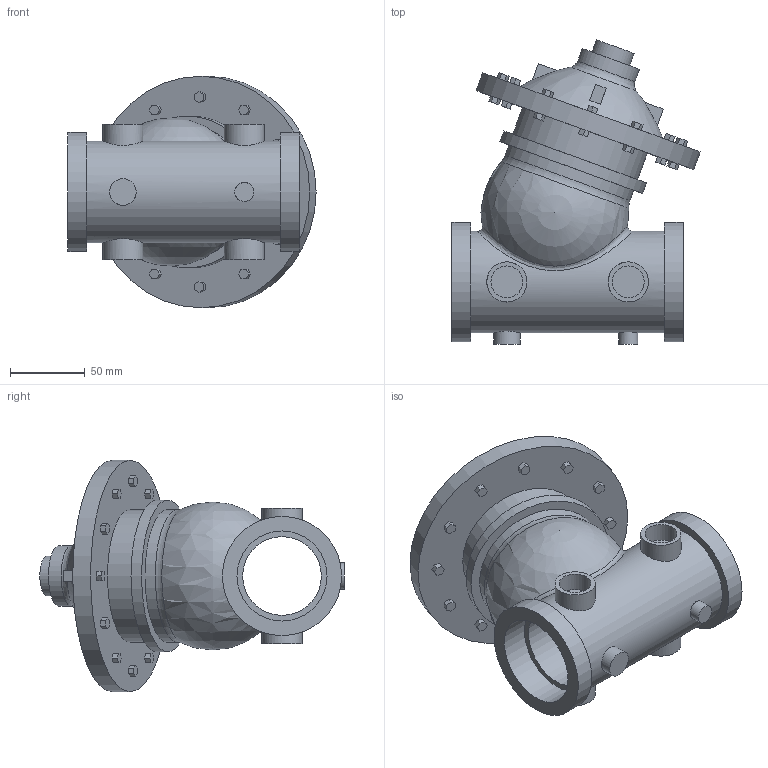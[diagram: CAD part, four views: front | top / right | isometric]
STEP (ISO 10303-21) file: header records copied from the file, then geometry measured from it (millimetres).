
FILE_DESCRIPTION(/* description */ ('VIC FP VALVE PRESSURE RELIEF SERIES 867-7UF (FPT)','CAx-IF Rec.Pracs.---Representation and Presentation of Product Manufacturing Information (PMI)---4.0---2014-10-13'),/* implementation_level */ '2;1');
FILE_NAME(/* name */ 'C:\Series 867-7UF\Series 867-7UF final\Victaulic_FP-Bermad_Valve Pressure Relief_Series 867-7UF (FPT)\Victaulic_FP-Bermad_Valve Pressure Relief_Series 867-7UF (FPT)_2 (50).stp',/* time_stamp */ '2021-09-02T13:09:43+06:00',/* author */ ('kkamble'),/* organization */ ('Victaulic'),/* preprocessor_version */ 'ST-DEVELOPER v17.2',/* originating_system */ 'Autodesk Inventor 2019',/* authorisation */ '');
FILE_SCHEMA (('AP242_MANAGED_MODEL_BASED_3D_ENGINEERING_MIM_LF { 1 0 10303 442 1 1 4 }'));
Length unit declared in the file: inch
Products named in the file (1): 867-7UF-02.0
Bounding box: 166.2 x 203.72 x 154.94 mm (x, y, z)
Volume: 1177502 mm3; surface area: 144690.7 mm2
Topology: 1 solids, 1 shells, 237 faces, 598 edges, 408 vertices
Faces by surface type: plane 210, cylinder 22, torus 2, bspline 2, sphere 1
Full cylindrical faces by diameter (mm): 12.7 x1, 17.78 x1, 21.336 x4, 26.67 x1, 26.873 x4, 40.64 x1, 52.705 x1, 60.325 x2, 67.945 x1, 79.756 x2, 88.9 x2, 101.6 x1, 154.94 x1
Entity records: 7976 total; most frequent: CARTESIAN_POINT 1876, ORIENTED_EDGE 1192, DIRECTION 1130, EDGE_CURVE 596, LINE 488, VECTOR 488, VERTEX_POINT 408, AXIS2_PLACEMENT_3D 321
